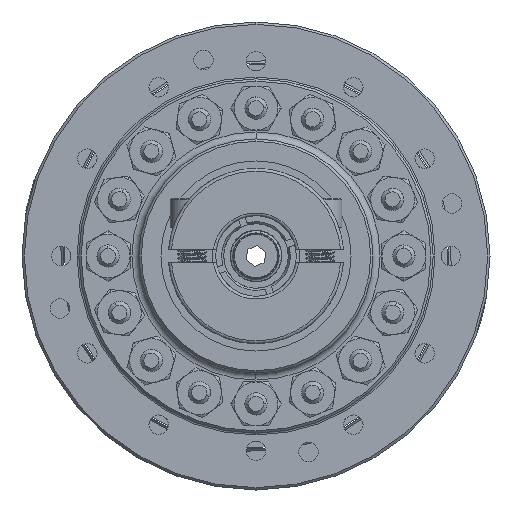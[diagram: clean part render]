
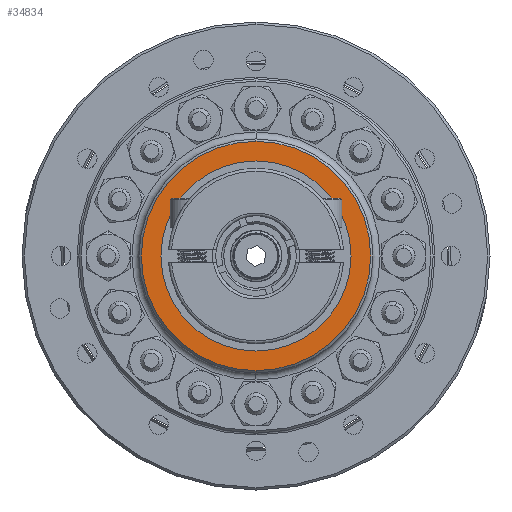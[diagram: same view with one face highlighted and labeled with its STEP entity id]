
A CAD part, left-side view. The second image highlights one B-rep face of the part: STEP entity #34834.
In plain terms, the highlighted planar face has unit normal (-1, 0, 0).
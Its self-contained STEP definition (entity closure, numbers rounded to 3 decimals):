
#498 = EDGE_LOOP ( 'NONE', ( #42825, #7741 ) ) ;
#2901 = CARTESIAN_POINT ( 'NONE',  ( 0., 24.892, 0. ) ) ;
#2934 = VERTEX_POINT ( 'NONE', #6894 ) ;
#6894 = CARTESIAN_POINT ( 'NONE',  ( 0., 0., -20.637 ) ) ;
#7090 = EDGE_CURVE ( 'NONE', #2934, #59490, #57830, .T. ) ;
#7741 = ORIENTED_EDGE ( 'NONE', *, *, #7090, .F. ) ;
#8577 = CARTESIAN_POINT ( 'NONE',  ( 0., 0., 0. ) ) ;
#11428 = EDGE_LOOP ( 'NONE', ( #43389, #45069 ) ) ;
#14697 = CARTESIAN_POINT ( 'NONE',  ( 0., 0., 0. ) ) ;
#18899 = CARTESIAN_POINT ( 'NONE',  ( 0., 0., 24.892 ) ) ;
#19470 = AXIS2_PLACEMENT_3D ( 'NONE', #2901, #21722, #59196 ) ;
#20233 = CARTESIAN_POINT ( 'NONE',  ( 0., 0., 20.637 ) ) ;
#21722 = DIRECTION ( 'NONE',  ( 1., 0., 0. ) ) ;
#22424 = CIRCLE ( 'NONE', #49807, 24.892 ) ;
#23590 = EDGE_CURVE ( 'NONE', #51884, #54143, #33840, .T. ) ;
#27361 = DIRECTION ( 'NONE',  ( -1., 0., 0. ) ) ;
#28502 = AXIS2_PLACEMENT_3D ( 'NONE', #43824, #58278, #52418 ) ;
#31511 = FACE_OUTER_BOUND ( 'NONE', #11428, .T. ) ;
#32878 = AXIS2_PLACEMENT_3D ( 'NONE', #37959, #57051, #33651 ) ;
#33651 = DIRECTION ( 'NONE',  ( 0., 0., 1. ) ) ;
#33840 = CIRCLE ( 'NONE', #32878, 24.892 ) ;
#34834 = ADVANCED_FACE ( 'NONE', ( #54235, #31511 ), #50207, .F. ) ;
#36492 = CARTESIAN_POINT ( 'NONE',  ( 0., 0., -24.892 ) ) ;
#37959 = CARTESIAN_POINT ( 'NONE',  ( 0., 0., 0. ) ) ;
#42039 = DIRECTION ( 'NONE',  ( -1., 0., 0. ) ) ;
#42647 = DIRECTION ( 'NONE',  ( 0., 0., 1. ) ) ;
#42651 = EDGE_CURVE ( 'NONE', #59490, #2934, #54969, .T. ) ;
#42825 = ORIENTED_EDGE ( 'NONE', *, *, #42651, .F. ) ;
#43389 = ORIENTED_EDGE ( 'NONE', *, *, #45540, .T. ) ;
#43824 = CARTESIAN_POINT ( 'NONE',  ( 0., 0., 0. ) ) ;
#45069 = ORIENTED_EDGE ( 'NONE', *, *, #23590, .T. ) ;
#45540 = EDGE_CURVE ( 'NONE', #54143, #51884, #22424, .T. ) ;
#46016 = AXIS2_PLACEMENT_3D ( 'NONE', #8577, #27361, #46047 ) ;
#46047 = DIRECTION ( 'NONE',  ( 0., 0., 1. ) ) ;
#49807 = AXIS2_PLACEMENT_3D ( 'NONE', #14697, #42039, #42647 ) ;
#50207 = PLANE ( 'NONE',  #19470 ) ;
#51884 = VERTEX_POINT ( 'NONE', #18899 ) ;
#52418 = DIRECTION ( 'NONE',  ( 0., 0., 1. ) ) ;
#54143 = VERTEX_POINT ( 'NONE', #36492 ) ;
#54235 = FACE_BOUND ( 'NONE', #498, .T. ) ;
#54969 = CIRCLE ( 'NONE', #28502, 20.637 ) ;
#57051 = DIRECTION ( 'NONE',  ( -1., 0., 0. ) ) ;
#57830 = CIRCLE ( 'NONE', #46016, 20.637 ) ;
#58278 = DIRECTION ( 'NONE',  ( -1., 0., 0. ) ) ;
#59196 = DIRECTION ( 'NONE',  ( 0., 0., -1. ) ) ;
#59490 = VERTEX_POINT ( 'NONE', #20233 ) ;
